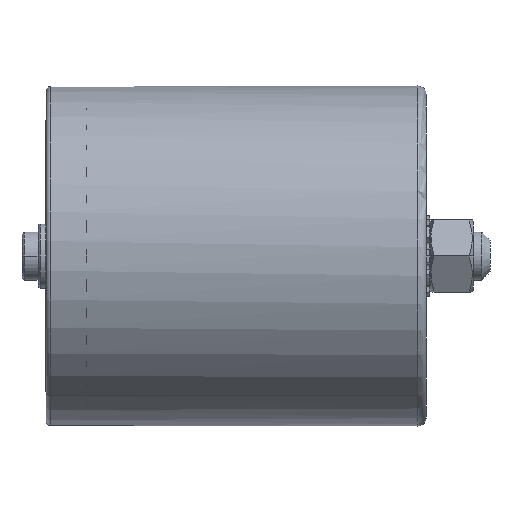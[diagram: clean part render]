
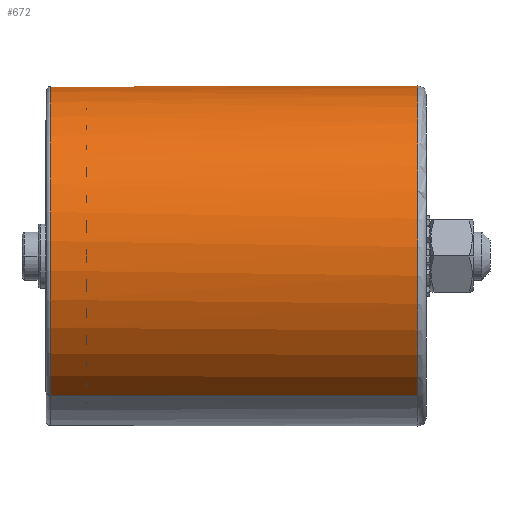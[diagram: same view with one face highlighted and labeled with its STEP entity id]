
A CAD part, left-side view. The second image highlights one B-rep face of the part: STEP entity #672.
In plain terms, the highlighted cylindrical face has radius 42.5 mm (diameter 85 mm), a partial arc.
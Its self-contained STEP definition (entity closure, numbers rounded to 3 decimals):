
#144 = CARTESIAN_POINT ( 'NONE',  ( 18.6, -4.544, 115.414 ) ) ;
#156 = LINE ( 'NONE', #720, #6702 ) ;
#513 = DIRECTION ( 'NONE',  ( 0., 0., -1. ) ) ;
#588 = ORIENTED_EDGE ( 'NONE', *, *, #5452, .T. ) ;
#597 = DIRECTION ( 'NONE',  ( 0., 1., 0. ) ) ;
#655 = ORIENTED_EDGE ( 'NONE', *, *, #2579, .F. ) ;
#672 = ADVANCED_FACE ( 'NONE', ( #2826 ), #3013, .T. ) ;
#720 = CARTESIAN_POINT ( 'NONE',  ( -30.154, -4.544, 45.786 ) ) ;
#893 = DIRECTION ( 'NONE',  ( 0., 1., 0. ) ) ;
#977 = VERTEX_POINT ( 'NONE', #3353 ) ;
#1304 = VERTEX_POINT ( 'NONE', #2351 ) ;
#1559 = DIRECTION ( 'NONE',  ( 0., 1., 0. ) ) ;
#2072 = DIRECTION ( 'NONE',  ( 0., 1., 0. ) ) ;
#2152 = DIRECTION ( 'NONE',  ( 0., 0., -1. ) ) ;
#2339 = VERTEX_POINT ( 'NONE', #6775 ) ;
#2351 = CARTESIAN_POINT ( 'NONE',  ( -5.777, -87.544, 123.1 ) ) ;
#2579 = EDGE_CURVE ( 'NONE', #7994, #977, #156, .T. ) ;
#2587 = CIRCLE ( 'NONE', #7759, 42.5 ) ;
#2643 = CARTESIAN_POINT ( 'NONE',  ( 18.6, -87.544, 115.414 ) ) ;
#2826 = FACE_OUTER_BOUND ( 'NONE', #3095, .T. ) ;
#3013 = CYLINDRICAL_SURFACE ( 'NONE', #3578, 42.5 ) ;
#3030 = ORIENTED_EDGE ( 'NONE', *, *, #6277, .T. ) ;
#3080 = EDGE_CURVE ( 'NONE', #2339, #977, #2587, .T. ) ;
#3095 = EDGE_LOOP ( 'NONE', ( #3737, #3030, #7302, #655, #588 ) ) ;
#3353 = CARTESIAN_POINT ( 'NONE',  ( -30.154, 4.456, 45.786 ) ) ;
#3558 = DIRECTION ( 'NONE',  ( -0.574, 0., -0.819 ) ) ;
#3578 = AXIS2_PLACEMENT_3D ( 'NONE', #6808, #1559, #3558 ) ;
#3737 = ORIENTED_EDGE ( 'NONE', *, *, #6505, .T. ) ;
#3783 = CIRCLE ( 'NONE', #6436, 42.5 ) ;
#4439 = DIRECTION ( 'NONE',  ( 0., 1., 0. ) ) ;
#4727 = VECTOR ( 'NONE', #2072, 1000. ) ;
#4740 = CARTESIAN_POINT ( 'NONE',  ( -5.777, 4.456, 80.6 ) ) ;
#5341 = LINE ( 'NONE', #144, #4727 ) ;
#5407 = CARTESIAN_POINT ( 'NONE',  ( -5.777, -87.544, 80.6 ) ) ;
#5452 = EDGE_CURVE ( 'NONE', #7994, #1304, #3783, .T. ) ;
#5497 = DIRECTION ( 'NONE',  ( 0.574, 0., 0.819 ) ) ;
#5807 = CARTESIAN_POINT ( 'NONE',  ( -30.154, -87.544, 45.786 ) ) ;
#6277 = EDGE_CURVE ( 'NONE', #8067, #2339, #5341, .T. ) ;
#6436 = AXIS2_PLACEMENT_3D ( 'NONE', #5407, #893, #2152 ) ;
#6505 = EDGE_CURVE ( 'NONE', #1304, #8067, #6562, .T. ) ;
#6562 = CIRCLE ( 'NONE', #8076, 42.5 ) ;
#6702 = VECTOR ( 'NONE', #597, 1000. ) ;
#6775 = CARTESIAN_POINT ( 'NONE',  ( 18.6, 4.456, 115.414 ) ) ;
#6808 = CARTESIAN_POINT ( 'NONE',  ( -5.777, -4.544, 80.6 ) ) ;
#7302 = ORIENTED_EDGE ( 'NONE', *, *, #3080, .T. ) ;
#7759 = AXIS2_PLACEMENT_3D ( 'NONE', #4740, #7996, #5497 ) ;
#7994 = VERTEX_POINT ( 'NONE', #5807 ) ;
#7996 = DIRECTION ( 'NONE',  ( 0., -1., 0. ) ) ;
#8067 = VERTEX_POINT ( 'NONE', #2643 ) ;
#8076 = AXIS2_PLACEMENT_3D ( 'NONE', #8328, #4439, #513 ) ;
#8328 = CARTESIAN_POINT ( 'NONE',  ( -5.777, -87.544, 80.6 ) ) ;
